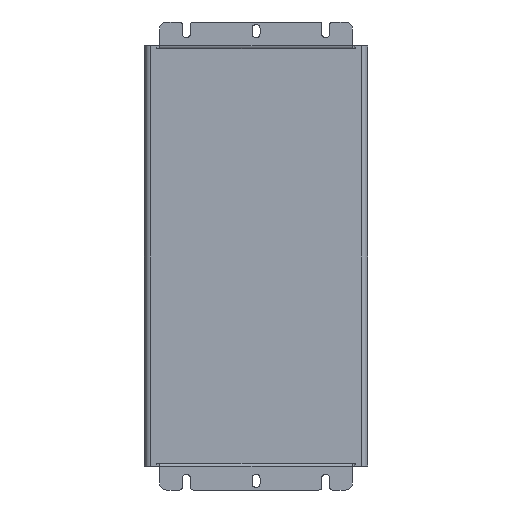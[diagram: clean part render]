
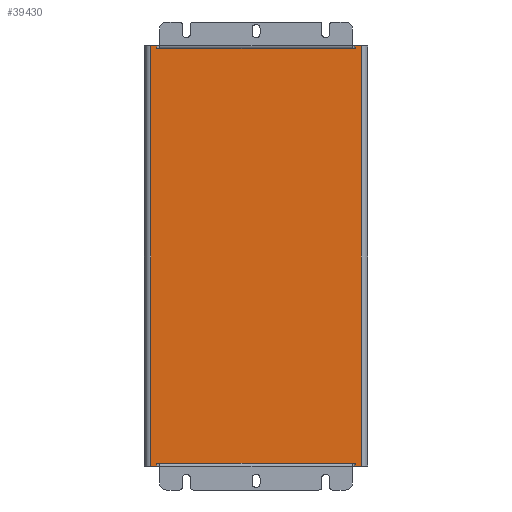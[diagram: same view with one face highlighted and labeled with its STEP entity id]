
A CAD part, front view. The second image highlights one B-rep face of the part: STEP entity #39430.
In plain terms, the highlighted planar face has unit normal (0, -1, 0).
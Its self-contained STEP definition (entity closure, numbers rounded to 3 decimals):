
#9860=CARTESIAN_POINT('',(1824.218,-2443.289,313.));
#9870=VERTEX_POINT('',#9860);
#9900=CARTESIAN_POINT('',(1824.218,-2443.289,313.));
#9910=DIRECTION('',(-1.,0.,0.));
#9920=VECTOR('',#9910,1.);
#9930=LINE('',#9900,#9920);
#9940=CARTESIAN_POINT('',(1820.842,-2443.289,313.));
#9950=VERTEX_POINT('',#9940);
#9960=EDGE_CURVE('',#9870,#9950,#9930,.T.);
#10520=CARTESIAN_POINT('',(1709.842,-2443.289,313.));
#10530=VERTEX_POINT('',#10520);
#10560=CARTESIAN_POINT('',(1709.842,-2443.289,313.));
#10570=DIRECTION('',(-1.,0.,0.));
#10580=VECTOR('',#10570,1.);
#10590=LINE('',#10560,#10580);
#10600=CARTESIAN_POINT('',(1706.467,-2443.289,313.));
#10610=VERTEX_POINT('',#10600);
#10620=EDGE_CURVE('',#10530,#10610,#10590,.T.);
#29440=CARTESIAN_POINT('',(1706.467,-2443.289,77.8));
#29450=VERTEX_POINT('',#29440);
#29480=CARTESIAN_POINT('',(1706.467,-2443.289,77.8));
#29490=DIRECTION('',(1.,0.,0.));
#29500=VECTOR('',#29490,1.);
#29510=LINE('',#29480,#29500);
#29520=CARTESIAN_POINT('',(1709.842,-2443.289,77.8));
#29530=VERTEX_POINT('',#29520);
#29540=EDGE_CURVE('',#29450,#29530,#29510,.T.);
#30100=CARTESIAN_POINT('',(1820.842,-2443.289,77.8));
#30110=VERTEX_POINT('',#30100);
#30140=CARTESIAN_POINT('',(1820.842,-2443.289,77.8));
#30150=DIRECTION('',(1.,0.,0.));
#30160=VECTOR('',#30150,1.);
#30170=LINE('',#30140,#30160);
#30180=CARTESIAN_POINT('',(1824.218,-2443.289,77.8));
#30190=VERTEX_POINT('',#30180);
#30200=EDGE_CURVE('',#30110,#30190,#30170,.T.);
#38760=CARTESIAN_POINT('',(1703.342,-2443.289,79.4));
#38770=DIRECTION('',(0.,-1.,0.));
#38780=DIRECTION('',(1.,0.,0.));
#38790=AXIS2_PLACEMENT_3D('',#38760,#38770,#38780);
#38800=PLANE('',#38790);
#38810=ORIENTED_EDGE('',*,*,#10620,.T.);
#38820=CARTESIAN_POINT('',(1709.842,-2443.289,313.));
#38830=DIRECTION('',(0.,0.,-1.));
#38840=VECTOR('',#38830,1.);
#38850=LINE('',#38820,#38840);
#38860=CARTESIAN_POINT('',(1709.842,-2443.289,
311.4));
#38870=VERTEX_POINT('',#38860);
#38880=EDGE_CURVE('',#10530,#38870,#38850,.T.);
#38890=ORIENTED_EDGE('',*,*,#38880,.F.);
#38900=CARTESIAN_POINT('',(1709.842,-2443.289,
311.4));
#38910=DIRECTION('',(1.,0.,0.));
#38920=VECTOR('',#38910,1.);
#38930=LINE('',#38900,#38920);
#38940=CARTESIAN_POINT('',(1820.842,-2443.289,
311.4));
#38950=VERTEX_POINT('',#38940);
#38960=EDGE_CURVE('',#38870,#38950,#38930,.T.);
#38970=ORIENTED_EDGE('',*,*,#38960,.F.);
#38980=CARTESIAN_POINT('',(1820.842,-2443.289,
311.4));
#38990=DIRECTION('',(0.,0.,1.));
#39000=VECTOR('',#38990,1.);
#39010=LINE('',#38980,#39000);
#39020=EDGE_CURVE('',#38950,#9950,#39010,.T.);
#39030=ORIENTED_EDGE('',*,*,#39020,.F.);
#39040=ORIENTED_EDGE('',*,*,#9960,.T.);
#39050=CARTESIAN_POINT('',(1824.218,-2443.289,77.8));
#39060=DIRECTION('',(0.,0.,1.));
#39070=VECTOR('',#39060,1.);
#39080=LINE('',#39050,#39070);
#39090=EDGE_CURVE('',#30190,#9870,#39080,.T.);
#39100=ORIENTED_EDGE('',*,*,#39090,.T.);
#39110=ORIENTED_EDGE('',*,*,#30200,.T.);
#39120=CARTESIAN_POINT('',(1820.842,-2443.289,77.8));
#39130=DIRECTION('',(0.,0.,1.));
#39140=VECTOR('',#39130,1.);
#39150=LINE('',#39120,#39140);
#39160=CARTESIAN_POINT('',(1820.842,-2443.289,
79.4));
#39170=VERTEX_POINT('',#39160);
#39180=EDGE_CURVE('',#30110,#39170,#39150,.T.);
#39190=ORIENTED_EDGE('',*,*,#39180,.F.);
#39200=CARTESIAN_POINT('',(1709.842,-2443.289,
79.4));
#39210=DIRECTION('',(1.,0.,0.));
#39220=VECTOR('',#39210,1.);
#39230=LINE('',#39200,#39220);
#39240=CARTESIAN_POINT('',(1709.842,-2443.289,
79.4));
#39250=VERTEX_POINT('',#39240);
#39260=EDGE_CURVE('',#39250,#39170,#39230,.T.);
#39270=ORIENTED_EDGE('',*,*,#39260,.T.);
#39280=CARTESIAN_POINT('',(1709.842,-2443.289,
79.4));
#39290=DIRECTION('',(0.,0.,-1.));
#39300=VECTOR('',#39290,1.);
#39310=LINE('',#39280,#39300);
#39320=EDGE_CURVE('',#39250,#29530,#39310,.T.);
#39330=ORIENTED_EDGE('',*,*,#39320,.F.);
#39340=ORIENTED_EDGE('',*,*,#29540,.T.);
#39350=CARTESIAN_POINT('',(1706.467,-2443.289,313.));
#39360=DIRECTION('',(0.,0.,-1.));
#39370=VECTOR('',#39360,1.);
#39380=LINE('',#39350,#39370);
#39390=EDGE_CURVE('',#10610,#29450,#39380,.T.);
#39400=ORIENTED_EDGE('',*,*,#39390,.T.);
#39410=EDGE_LOOP('',(#39400,#39340,#39330,#39270,#39190,#39110,#39100,
#39040,#39030,#38970,#38890,#38810));
#39420=FACE_OUTER_BOUND('',#39410,.T.);
#39430=ADVANCED_FACE('',(#39420),#38800,.T.);
